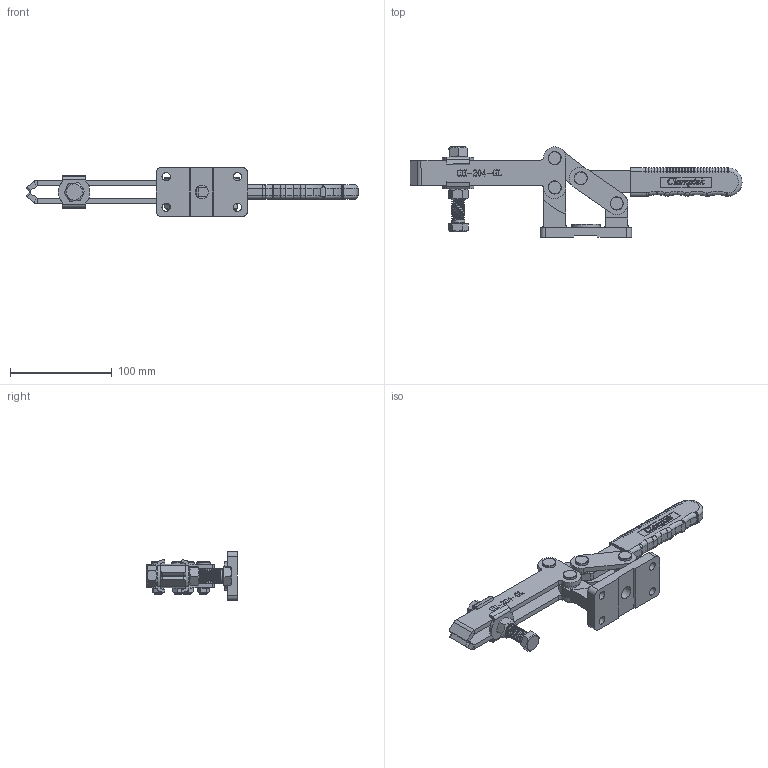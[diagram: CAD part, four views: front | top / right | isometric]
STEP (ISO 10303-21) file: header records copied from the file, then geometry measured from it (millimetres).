
FILE_DESCRIPTION(/* description */ ('STEP AP203'),/* implementation_level */ '2;1');
FILE_NAME(/* name */ 'E:\STRONA\Horizontal toggle clamp\CH-204-GL\CH-204-GL_ZAMKNIETY.stp',/* time_stamp */ '2019-01-15T14:37:13+01:00',/* author */ ('Admin'),/* organization */ ('Microsoft'),/* preprocessor_version */ 'ST-DEVELOPER v17.2',/* originating_system */ 'Autodesk Inventor 2019',/* authorisation */ '');
FILE_SCHEMA (('AUTOMOTIVE_DESIGN { 1 0 10303 214 3 1 1 }'));
Products named in the file (15): CH-204-GL_ZAMKNIETY; 201-G-01; 204-G-03; 204-GB-03; 204-GB-07; 204-GB-06; 204-GB-04; CH-FC-12300-01; CH-FC-12130; 204-G-02; M6; CH-204-GL-02; 204-G-03_1; CH-204-GL-01; FW120(2)
Assembly tree (32 placements, depth 3):
  CH-204-GL_ZAMKNIETY
    201-G-01
    204-GB-06  x8
    204-G-03
      204-GB-03
      204-GB-07
    204-GB-04  x2
    FW120(2)  x2
    CH-FC-12300-01  x2
    CH-FC-12130
    204-G-02  x3
    204-G-03_1  x4
    M6  x4
    CH-204-GL-02
    CH-204-GL-01
Bounding box: 326.53 x 89.2 x 48 mm (x, y, z)
Volume: 196919.7 mm3; surface area: 98409.5 mm2
Topology: 31 solids, 31 shells, 3686 faces, 9897 edges, 6336 vertices
Faces by surface type: plane 2258, cylinder 980, bspline 279, cone 86, torus 77, sphere 6
Full cylindrical faces by diameter (mm): 2.973 x1, 3.099 x1, 4.8 x20, 6.9 x4, 7.9 x4, 8.3 x4, 9.5 x17, 10 x8, 10.2 x2, 10.5 x8, 12.7 x34, 13 x5, 14 x2, 14.1 x3, 20 x8, 28 x1
Entity records: 88329 total; most frequent: CARTESIAN_POINT 38123, ORIENTED_EDGE 10926, DIRECTION 9440, EDGE_CURVE 5463, LINE 3674, VECTOR 3674, VERTEX_POINT 3519, AXIS2_PLACEMENT_3D 2883
